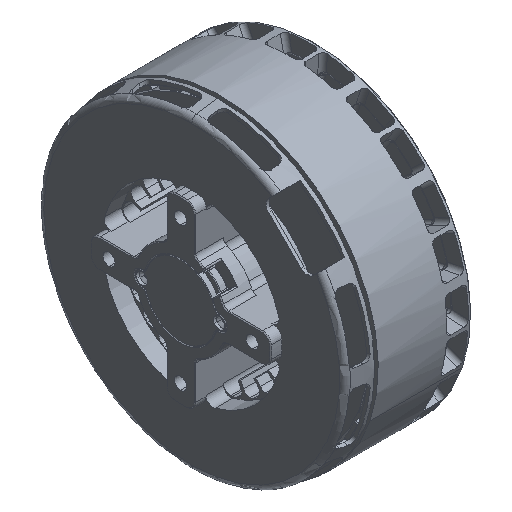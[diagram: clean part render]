
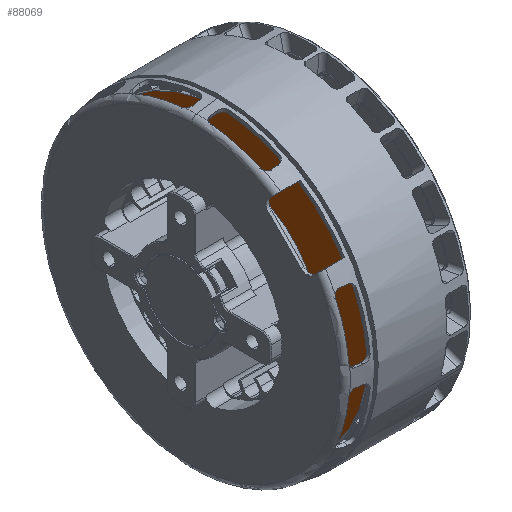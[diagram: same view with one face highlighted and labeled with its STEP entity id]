
A CAD part, isometric view. The second image highlights one B-rep face of the part: STEP entity #88069.
In plain terms, the highlighted planar face has unit normal (-1, 0, 0).
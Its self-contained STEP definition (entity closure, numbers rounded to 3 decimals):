
#235 = CARTESIAN_POINT ( 'NONE',  ( 15.4, 0., -33. ) ) ;
#994 = FACE_BOUND ( 'NONE', #54385, .T. ) ;
#10855 = VERTEX_POINT ( 'NONE', #90351 ) ;
#12576 = DIRECTION ( 'NONE',  ( 1., 0., 0. ) ) ;
#16245 = CIRCLE ( 'NONE', #33240, 33. ) ;
#16304 = DIRECTION ( 'NONE',  ( 0., 1., 0. ) ) ;
#22455 = ORIENTED_EDGE ( 'NONE', *, *, #94520, .T. ) ;
#24236 = CARTESIAN_POINT ( 'NONE',  ( 15.4, 0., 0. ) ) ;
#25371 = DIRECTION ( 'NONE',  ( 1., 0., 0. ) ) ;
#28150 = EDGE_CURVE ( 'NONE', #10855, #42149, #32977, .T. ) ;
#29425 = VERTEX_POINT ( 'NONE', #47616 ) ;
#31906 = VERTEX_POINT ( 'NONE', #235 ) ;
#32977 = CIRCLE ( 'NONE', #77260, 50. ) ;
#33240 = AXIS2_PLACEMENT_3D ( 'NONE', #59915, #12576, #35964 ) ;
#35964 = DIRECTION ( 'NONE',  ( 0., 1., 0. ) ) ;
#42149 = VERTEX_POINT ( 'NONE', #75550 ) ;
#42404 = CARTESIAN_POINT ( 'NONE',  ( 15.4, 27.642, -23.683 ) ) ;
#44646 = CARTESIAN_POINT ( 'NONE',  ( 15.4, 0., 0. ) ) ;
#47616 = CARTESIAN_POINT ( 'NONE',  ( 15.4, 0., 33. ) ) ;
#48786 = PLANE ( 'NONE',  #77320 ) ;
#54385 = EDGE_LOOP ( 'NONE', ( #102028, #22455 ) ) ;
#56548 = EDGE_CURVE ( 'NONE', #42149, #10855, #95205, .T. ) ;
#57738 = DIRECTION ( 'NONE',  ( -1., 0., 0. ) ) ;
#58429 = CIRCLE ( 'NONE', #68744, 33. ) ;
#59915 = CARTESIAN_POINT ( 'NONE',  ( 15.4, 0., 0. ) ) ;
#60100 = DIRECTION ( 'NONE',  ( -1., 0., 0. ) ) ;
#64717 = DIRECTION ( 'NONE',  ( 0., 1., 0. ) ) ;
#66321 = CARTESIAN_POINT ( 'NONE',  ( 15.4, 0., 0. ) ) ;
#68744 = AXIS2_PLACEMENT_3D ( 'NONE', #24236, #96709, #16304 ) ;
#69437 = EDGE_LOOP ( 'NONE', ( #99706, #73750 ) ) ;
#71610 = EDGE_CURVE ( 'NONE', #29425, #31906, #16245, .T. ) ;
#73386 = DIRECTION ( 'NONE',  ( 0., -0.707, -0.707 ) ) ;
#73750 = ORIENTED_EDGE ( 'NONE', *, *, #28150, .T. ) ;
#74968 = FACE_OUTER_BOUND ( 'NONE', #69437, .T. ) ;
#75550 = CARTESIAN_POINT ( 'NONE',  ( 15.4, 50., 0. ) ) ;
#77260 = AXIS2_PLACEMENT_3D ( 'NONE', #44646, #60100, #92660 ) ;
#77320 = AXIS2_PLACEMENT_3D ( 'NONE', #42404, #25371, #73386 ) ;
#88069 = ADVANCED_FACE ( 'NONE', ( #74968, #994 ), #48786, .F. ) ;
#90351 = CARTESIAN_POINT ( 'NONE',  ( 15.4, -50., 0. ) ) ;
#91807 = AXIS2_PLACEMENT_3D ( 'NONE', #66321, #57738, #64717 ) ;
#92660 = DIRECTION ( 'NONE',  ( 0., 1., 0. ) ) ;
#94520 = EDGE_CURVE ( 'NONE', #31906, #29425, #58429, .T. ) ;
#95205 = CIRCLE ( 'NONE', #91807, 50. ) ;
#96709 = DIRECTION ( 'NONE',  ( 1., 0., 0. ) ) ;
#99706 = ORIENTED_EDGE ( 'NONE', *, *, #56548, .T. ) ;
#102028 = ORIENTED_EDGE ( 'NONE', *, *, #71610, .T. ) ;
